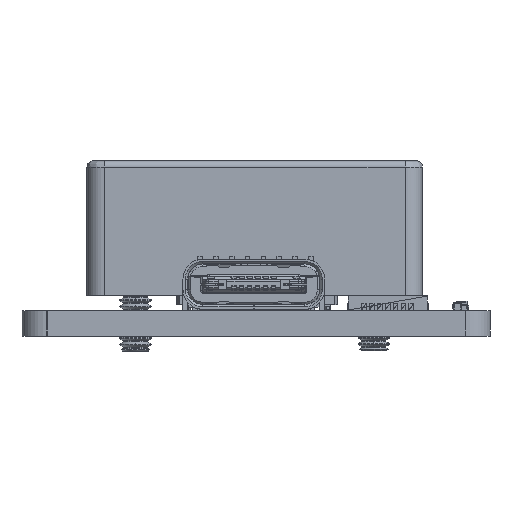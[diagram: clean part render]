
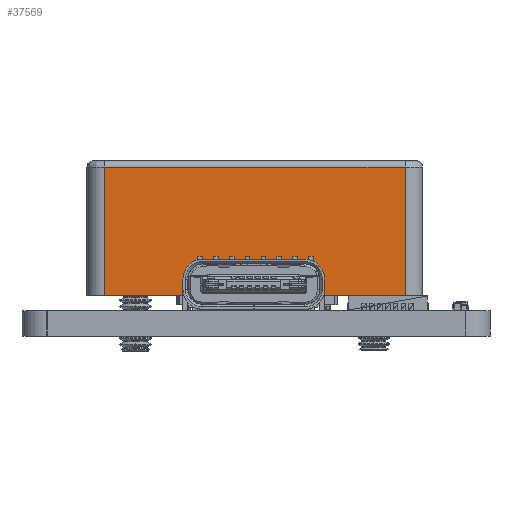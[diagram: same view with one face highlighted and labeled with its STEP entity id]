
A CAD part, front view. The second image highlights one B-rep face of the part: STEP entity #37569.
In plain terms, the highlighted planar face has unit normal (0, -1, 0) as drawn and (1, 0, 0) by its records, which use the part's own axes.
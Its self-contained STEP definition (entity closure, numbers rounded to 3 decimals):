
#37047 = VERTEX_POINT('',#37048);
#37048 = CARTESIAN_POINT('',(10.6,-9.5,1.9));
#37244 = VERTEX_POINT('',#37245);
#37245 = CARTESIAN_POINT('',(10.6,9.5,1.9));
#37380 = EDGE_CURVE('',#37244,#37047,#37381,.T.);
#37381 = LINE('',#37382,#37383);
#37382 = CARTESIAN_POINT('',(10.6,-9.5,1.9));
#37383 = VECTOR('',#37384,1.);
#37384 = DIRECTION('',(0.,-1.,0.));
#37394 = EDGE_CURVE('',#37395,#37047,#37397,.T.);
#37395 = VERTEX_POINT('',#37396);
#37396 = CARTESIAN_POINT('',(10.6,-9.5,10.));
#37397 = LINE('',#37398,#37399);
#37398 = CARTESIAN_POINT('',(10.6,-9.5,1.5));
#37399 = VECTOR('',#37400,1.);
#37400 = DIRECTION('',(0.,0.,-1.));
#37550 = VERTEX_POINT('',#37551);
#37551 = CARTESIAN_POINT('',(10.6,9.5,10.));
#37558 = EDGE_CURVE('',#37244,#37550,#37559,.T.);
#37559 = LINE('',#37560,#37561);
#37560 = CARTESIAN_POINT('',(10.6,9.5,1.5));
#37561 = VECTOR('',#37562,1.);
#37562 = DIRECTION('',(0.,0.,1.));
#37569 = ADVANCED_FACE('',(#37570),#37581,.T.);
#37570 = FACE_BOUND('',#37571,.T.);
#37571 = EDGE_LOOP('',(#37572,#37573,#37579,#37580));
#37572 = ORIENTED_EDGE('',*,*,#37558,.T.);
#37573 = ORIENTED_EDGE('',*,*,#37574,.T.);
#37574 = EDGE_CURVE('',#37550,#37395,#37575,.T.);
#37575 = LINE('',#37576,#37577);
#37576 = CARTESIAN_POINT('',(10.6,-9.5,10.));
#37577 = VECTOR('',#37578,1.);
#37578 = DIRECTION('',(0.,-1.,0.));
#37579 = ORIENTED_EDGE('',*,*,#37394,.T.);
#37580 = ORIENTED_EDGE('',*,*,#37380,.F.);
#37581 = PLANE('',#37582);
#37582 = AXIS2_PLACEMENT_3D('',#37583,#37584,#37585);
#37583 = CARTESIAN_POINT('',(10.6,-9.5,1.5));
#37584 = DIRECTION('',(1.,0.,0.));
#37585 = DIRECTION('',(0.,1.,0.));
